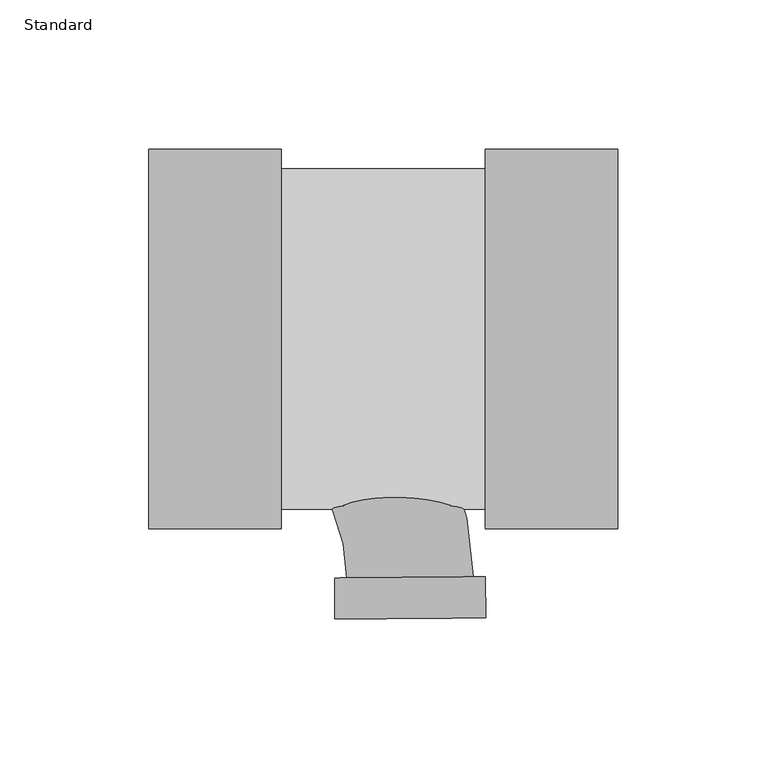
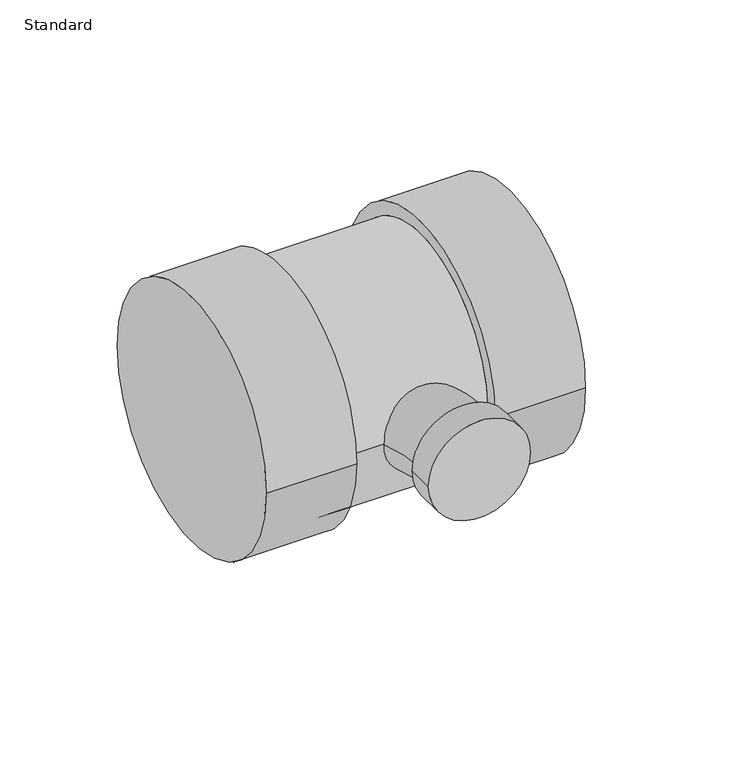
"""IFC4 building model written with IfcOpenShell, lengths in millimetres: pipe fitting geometry, EG-RCAN Té sanitaire de réduction - PVC - Nom. 40 - DWV : Standard."""

from ifc_helpers import new_model, si_unit, point, frame, origin, place, context, project, spatial, circle_curve, ellipse_curve, trimmed, source, transform, mapped, element, save
from ifc_brep_helpers import plane_surface, cylinder_surface, revolved_surface, advanced_brep


def standard_4afe001c(model_context):
    return source(origin(), model_context, "Body", "AdvancedBrep", [
        advanced_brep(
        [(25.921198, -63.754, 0.0), (25.921198, 63.754, 0.0), (25.921198, -57.15, 0.0), (25.921198, 57.15, 0.0), (70.371198, -63.754, 0.0), (70.371198, 63.754, 0.0), (-42.4599062, 57.15, 0.0), (-42.4599062, -57.15, 0.0), (-86.9099063, -63.754, 0.0), (-86.9099062, 63.754, 0.0), (-42.4599063, -63.754, 0.0), (-42.4599062, 63.754, 0.0)],
        [
            (0, 1, circle_curve(frame((25.921198, 0.0, 0.0), z_axis=(-1.0, 0.0, 0.0), x_axis=(0.0, 1.0, 0.0)), 63.754)),
            (1, 0, circle_curve(frame((25.921198, 0.0, 0.0), z_axis=(-1.0, 0.0, 0.0), x_axis=(0.0, 1.0, 0.0)), 63.754)),
            (2, 3, circle_curve(frame((25.921198, 0.0, 0.0), z_axis=(1.0, 0.0, 0.0), x_axis=(0.0, 0.0, -1.0)), 57.15)),
            (3, 2, circle_curve(frame((25.921198, 0.0, 0.0), z_axis=(1.0, 0.0, 0.0), x_axis=(0.0, 0.0, 1.0)), 57.15)),
            (4, 5, circle_curve(frame((70.371198, 0.0, 0.0), z_axis=(1.0, 0.0, 0.0), x_axis=(0.0, 1.0, 0.0)), 63.754)),
            (5, 4, circle_curve(frame((70.371198, 0.0, 0.0), z_axis=(1.0, 0.0, 0.0), x_axis=(0.0, 1.0, 0.0)), 63.754)),
            (0, 4),
            (5, 1),
            (6, 3),
            (2, 7),
            (7, 6, circle_curve(frame((-42.4599063, 0.0, 0.0), z_axis=(1.0, 0.0, 0.0), x_axis=(0.0, 0.0, -1.0)), 57.15)),
            (6, 7, circle_curve(frame((-42.4599062, 0.0, 0.0), z_axis=(1.0, 0.0, 0.0), x_axis=(0.0, 0.0, 1.0)), 57.15)),
            (8, 9, circle_curve(frame((-86.9099062, 0.0, 0.0), z_axis=(-1.0, 0.0, 0.0), x_axis=(0.0, 1.0, 0.0)), 63.754)),
            (9, 8, circle_curve(frame((-86.9099062, 0.0, 0.0), z_axis=(-1.0, 0.0, 0.0), x_axis=(0.0, 1.0, 0.0)), 63.754)),
            (10, 11, circle_curve(frame((-42.4599062, 0.0, 0.0), z_axis=(1.0, 0.0, 0.0), x_axis=(0.0, 1.0, 0.0)), 63.754)),
            (11, 10, circle_curve(frame((-42.4599062, 0.0, 0.0), z_axis=(1.0, 0.0, 0.0), x_axis=(0.0, 1.0, 0.0)), 63.754)),
            (8, 10),
            (11, 9),
        ],
        [
            plane_surface(frame((25.921198, 0.0, 0.0), z_axis=(-1.0, 0.0, 0.0), x_axis=(0.0, 0.0, 1.0))),
            plane_surface(frame((70.371198, 0.0, 0.0), z_axis=(1.0, 0.0, 0.0), x_axis=(0.0, 0.0, 1.0))),
            cylinder_surface(frame((25.921198, 0.0, 0.0), z_axis=(-1.0, 0.0, 0.0), x_axis=(0.0, 1.0, 0.0)), 63.754),
            cylinder_surface(frame((-42.4599062, 0.0, 0.0), z_axis=(1.0, 0.0, 0.0), x_axis=(0.0, 0.0, -1.0)), 57.15),
            cylinder_surface(frame((-42.4599062, 0.0, 0.0), z_axis=(1.0, 0.0, 0.0), x_axis=(0.0, 0.0, 1.0)), 57.15),
            plane_surface(frame((-86.9099062, 0.0, 0.0), z_axis=(-1.0, 0.0, 0.0), x_axis=(0.0, 0.0, 1.0))),
            plane_surface(frame((-42.4599062, 0.0, 0.0), z_axis=(1.0, 0.0, 0.0), x_axis=(0.0, 0.0, 1.0))),
            cylinder_surface(frame((-86.9099062, 0.0, 0.0), z_axis=(-1.0, 0.0, 0.0), x_axis=(0.0, 1.0, 0.0)), 63.754),
        ],
        [
            (0, [[1, 2], [3, 4]]),
            (1, [[5, 6]]),
            (2, [[-1, 7, -6, 8]]),
            (2, [[-2, -8, -5, -7]]),
            (3, [[9, -3, 10, 11]]),
            (4, [[-9, 12, -10, -4]]),
            (5, [[13, 14]]),
            (6, [[15, 16], [-11, -12]]),
            (7, [[-13, 17, -16, 18]]),
            (7, [[-14, -18, -15, -17]]),
        ],
    ),
        advanced_brep(
        [(-24.6113284, -80.2317586, 0.0), (25.921198, -79.8181939, 0.0), (21.8582872, -79.8514453, 0.0), (-20.5484176, -80.1985072, 0.0), (-24.4988797, -93.971611, 0.0), (26.0336467, -93.5580462, 0.0), (-80.0276562, -21.2040625, 0.0), (-80.0276562, 21.2040625, 0.0)],
        [
            (0, 1, circle_curve(frame((0.6549348, -80.0249763, 0.0), z_axis=(-0.008183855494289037, 0.999966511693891, 0.0), x_axis=(0.999966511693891, 0.008183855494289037, 0.0)), 25.2671094)),
            (1, 0, circle_curve(frame((0.6549348, -80.0249763, 0.0), z_axis=(-0.008183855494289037, 0.999966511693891, 0.0), x_axis=(0.999966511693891, 0.008183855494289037, 0.0)), 25.2671094)),
            (2, 3, circle_curve(frame((0.6549348, -80.0249763, 0.0), z_axis=(0.008183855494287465, -0.999966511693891, 0.0), x_axis=(0.999966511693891, 0.008183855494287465, 0.0)), 21.2040625)),
            (3, 2, circle_curve(frame((0.6549348, -80.0249763, 0.0), z_axis=(0.008183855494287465, -0.999966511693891, 0.0), x_axis=(0.999966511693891, 0.008183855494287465, 0.0)), 21.2040625)),
            (4, 5, circle_curve(frame((0.7673835, -93.7648286, 0.0), z_axis=(0.008183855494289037, -0.999966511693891, 0.0), x_axis=(0.999966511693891, 0.008183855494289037, 0.0)), 25.2671094)),
            (5, 4, circle_curve(frame((0.7673835, -93.7648286, 0.0), z_axis=(0.008183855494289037, -0.999966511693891, 0.0), x_axis=(0.999966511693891, 0.008183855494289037, 0.0)), 25.2671094)),
            (0, 4),
            (5, 1),
            (6, 7, circle_curve(frame((-80.0276562, 0.0, 0.0), z_axis=(-1.0, 0.0, 0.0), x_axis=(0.0, 1.0, 0.0)), 21.2040625)),
            (7, 6, circle_curve(frame((-80.0276562, 0.0, 0.0), z_axis=(-1.0, 0.0, 0.0), x_axis=(0.0, 1.0, 0.0)), 21.2040625)),
            (6, 3, circle_curve(frame((-80.0276562, -80.685293, 0.0), z_axis=(0.0, 0.0, -1.0), x_axis=(0.0, 1.0, 0.0)), 59.4812305)),
            (2, 7, circle_curve(frame((-80.0276562, -80.685293, 0.0), z_axis=(0.0, 0.0, 1.0), x_axis=(0.0, 1.0, 0.0)), 101.8893555)),
        ],
        [
            plane_surface(frame((0.6549348, -80.0249763, 0.0), z_axis=(-0.008183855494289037, 0.999966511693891, 0.0), x_axis=(0.0, 0.0, 1.0))),
            plane_surface(frame((0.7673835, -93.7648286, 0.0), z_axis=(0.008183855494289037, -0.999966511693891, 0.0), x_axis=(0.0, 0.0, 1.0))),
            cylinder_surface(frame((0.6549348, -80.0249763, 0.0), z_axis=(-0.008183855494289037, 0.999966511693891, 0.0), x_axis=(0.999966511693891, 0.008183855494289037, 0.0)), 25.2671094),
            plane_surface(frame((-80.0276562, 0.0, 0.0), z_axis=(-1.0, 0.0, 0.0), x_axis=(0.0, 0.0, 1.0))),
            revolved_surface(trimmed(ellipse_curve(frame((-80.0276562, 0.0, 0.0), z_axis=(-1.0, 0.0, 0.0), x_axis=(0.0, 1.0, 0.0)), 21.2040625, 21.2040625), [point((-80.0276562, -21.2040625, 0.0))], [point((-80.0276562, 21.2040625, 0.0))], True, "CARTESIAN"), (-80.0276562, -80.685293, 0.0), (0.0, 0.0, -1.0)),
            revolved_surface(trimmed(ellipse_curve(frame((-80.0276562, 0.0, 0.0), z_axis=(-1.0, 0.0, 0.0), x_axis=(0.0, 1.0, 0.0)), 21.2040625, 21.2040625), [point((-80.0276562, 21.2040625, 0.0))], [point((-80.0276562, -21.2040625, 0.0))], True, "CARTESIAN"), (-80.0276562, -80.685293, 0.0), (0.0, 0.0, -1.0)),
        ],
        [
            (0, [[1, 2], [3, 4]]),
            (1, [[5, 6]]),
            (2, [[-1, 7, -6, 8]]),
            (2, [[-2, -8, -5, -7]]),
            (3, [[9, 10]]),
            (4, [[-9, 11, -3, 12]]),
            (5, [[-10, -12, -4, -11]]),
        ],
    ),
    ])


if __name__ == "__main__":
    model = new_model("IFC4")
    model_context = context("Model", 3, world=origin())
    ifc_project = project(units=[si_unit("LENGTHUNIT", "METRE", prefix="MILLI")], contexts=[model_context])
    site = spatial("IfcSite", under=ifc_project)
    building = spatial("IfcBuilding", under=site)
    placement = place(None, origin())
    standard_shape = standard_4afe001c(model_context)
    element("IfcPipeFitting", 1, ObjectType="EG-RCAN Té sanitaire de réduction - PVC - Nom. 40 - DWV : Standard", at=placement, inside=building, context=model_context, shape_type="MappedRepresentation", body=[
        mapped(standard_shape, transform((0.0, 0.0, 0.0), x_axis=(1.0, 0.0, 0.0), y_axis=(0.0, 1.0, 0.0), z_axis=(0.0, 0.0, 1.0))),
    ])
    save(model, "model.ifc")
